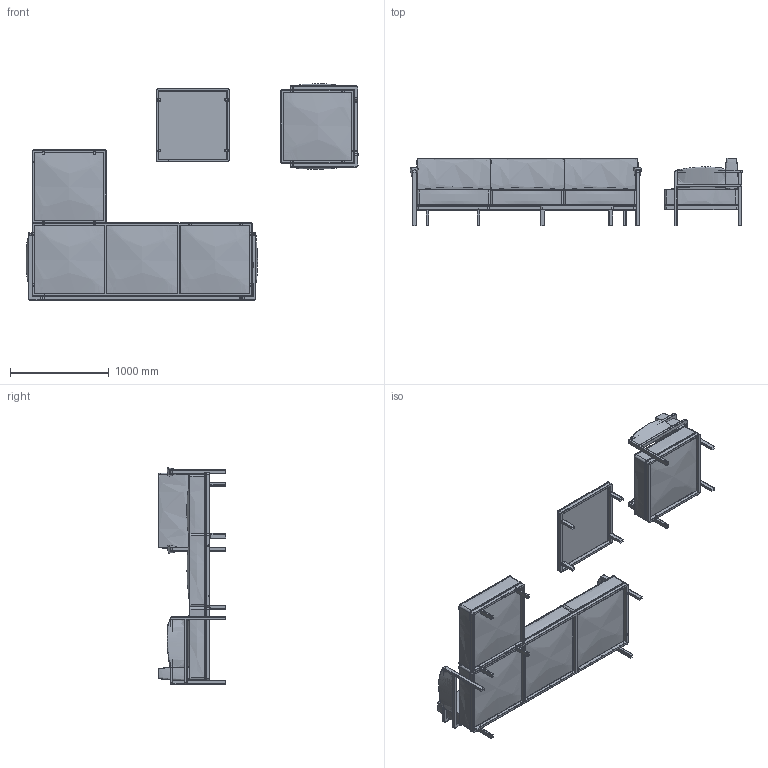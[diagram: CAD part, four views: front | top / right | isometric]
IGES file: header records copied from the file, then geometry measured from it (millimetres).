
Start section: SolidWorks IGES file using analytic representation for surfaces
Global section: file name: C:\Users\ibrahim\Desktop\sofa\sahne-3.IGS; native system: SolidWorks 2015; preprocessor: SolidWorks 2015; author: ibrahim; date: 180208.151729; units: millimetre
Bounding box: 3358.05 x 681.23 x 2188.25 mm (x, y, z)
Surface area: 21431542.7 mm2 (no closed solid volume)
Topology: 0 solids, 0 shells, 2337 faces, 27399 edges, 27399 vertices
Faces by surface type: bspline 1625, revolution 712
